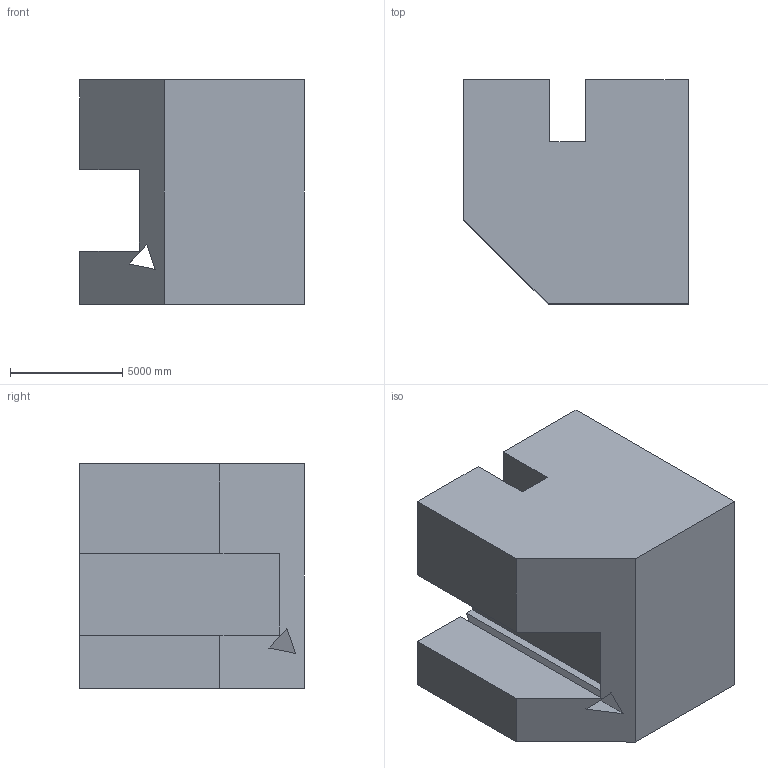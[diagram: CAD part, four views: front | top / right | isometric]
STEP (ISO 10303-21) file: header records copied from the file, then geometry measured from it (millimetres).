
FILE_DESCRIPTION (( 'STEP AP203' ), '1' );
FILE_NAME ('1361.STEP', '2022-08-18T14:02:37', ( 'user' ), ( '' ), 'SwSTEP 2.0', 'SolidWorks 2021', '' );
FILE_SCHEMA (( 'CONFIG_CONTROL_DESIGN' ));
Length unit declared in the file: centimetre
Products named in the file (1): 1361
Bounding box: 10000 x 10000 x 10000 mm (x, y, z)
Volume: 781991895766.3 mm3; surface area: 672442804.9 mm2
Topology: 1 solids, 1 shells, 20 faces, 57 edges, 38 vertices
Faces by surface type: plane 20
Entity records: 722 total; most frequent: CARTESIAN_POINT 116, ORIENTED_EDGE 114, DIRECTION 99, LINE 57, VECTOR 57, EDGE_CURVE 57, VERTEX_POINT 38, EDGE_LOOP 21
